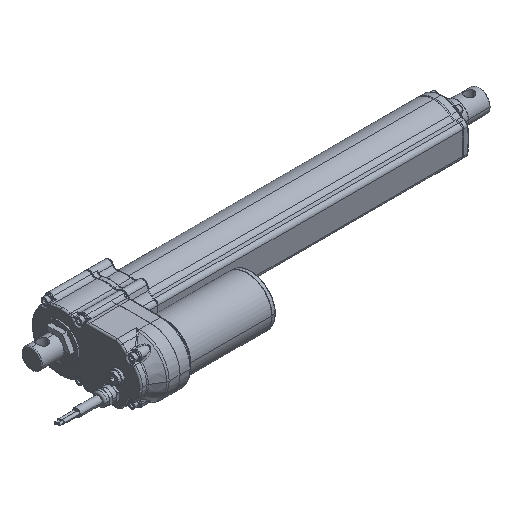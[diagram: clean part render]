
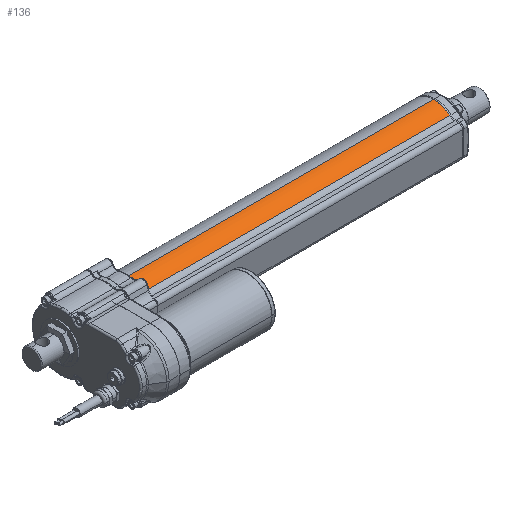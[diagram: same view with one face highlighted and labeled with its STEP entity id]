
A CAD part, isometric view. The second image highlights one B-rep face of the part: STEP entity #136.
In plain terms, the highlighted cylindrical face has radius 30.5 mm (diameter 61 mm), a partial arc.
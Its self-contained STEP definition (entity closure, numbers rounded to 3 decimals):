
#136=ADVANCED_FACE('',(#1138),#1139,.T.);
#1138=FACE_OUTER_BOUND('',#3063,.T.);
#1139=CYLINDRICAL_SURFACE('',#3064,30.5);
#3063=EDGE_LOOP('',(#8479,#8480,#8481,#8482));
#3064=AXIS2_PLACEMENT_3D('',#8483,#8484,#8485);
#8479=ORIENTED_EDGE('',*,*,#15518,.F.);
#8480=ORIENTED_EDGE('',*,*,#15519,.F.);
#8481=ORIENTED_EDGE('',*,*,#15520,.T.);
#8482=ORIENTED_EDGE('',*,*,#15521,.F.);
#8483=CARTESIAN_POINT('',(94.3,0.,0.));
#8484=DIRECTION('',(1.0,0.,0.));
#8485=DIRECTION('',(0.,0.,1.0));
#15518=EDGE_CURVE('',#18125,#18126,#18127,.T.);
#15519=EDGE_CURVE('',#18128,#18125,#18129,.T.);
#15520=EDGE_CURVE('',#18128,#18130,#18131,.T.);
#15521=EDGE_CURVE('',#18126,#18130,#18132,.T.);
#18125=VERTEX_POINT('',#23105);
#18126=VERTEX_POINT('',#23106);
#18127=LINE('',#23107,#23108);
#18128=VERTEX_POINT('',#23109);
#18129=CIRCLE('',#23110,30.5);
#18130=VERTEX_POINT('',#23111);
#18131=LINE('',#23112,#23113);
#18132=CIRCLE('',#23114,30.5);
#23105=CARTESIAN_POINT('',(94.3,0.,30.5));
#23106=CARTESIAN_POINT('',(489.5,0.,30.5));
#23107=CARTESIAN_POINT('',(94.3,0.,30.5));
#23108=VECTOR('',#38996,1.0);
#23109=CARTESIAN_POINT('',(94.3,-20.49,22.593));
#23110=AXIS2_PLACEMENT_3D('',#38997,#38998,#38999);
#23111=CARTESIAN_POINT('',(489.5,-20.49,22.593));
#23112=CARTESIAN_POINT('',(94.3,-20.49,22.593));
#23113=VECTOR('',#39000,1.0);
#23114=AXIS2_PLACEMENT_3D('',#39001,#39002,#39003);
#38996=DIRECTION('',(1.0,0.,0.));
#38997=CARTESIAN_POINT('',(94.3,0.,0.));
#38998=DIRECTION('',(-1.0,0.,0.));
#38999=DIRECTION('',(0.,0.,1.0));
#39000=DIRECTION('',(1.0,0.,0.));
#39001=CARTESIAN_POINT('',(489.5,0.,0.));
#39002=DIRECTION('',(1.0,0.,0.));
#39003=DIRECTION('',(0.,0.,1.0));
